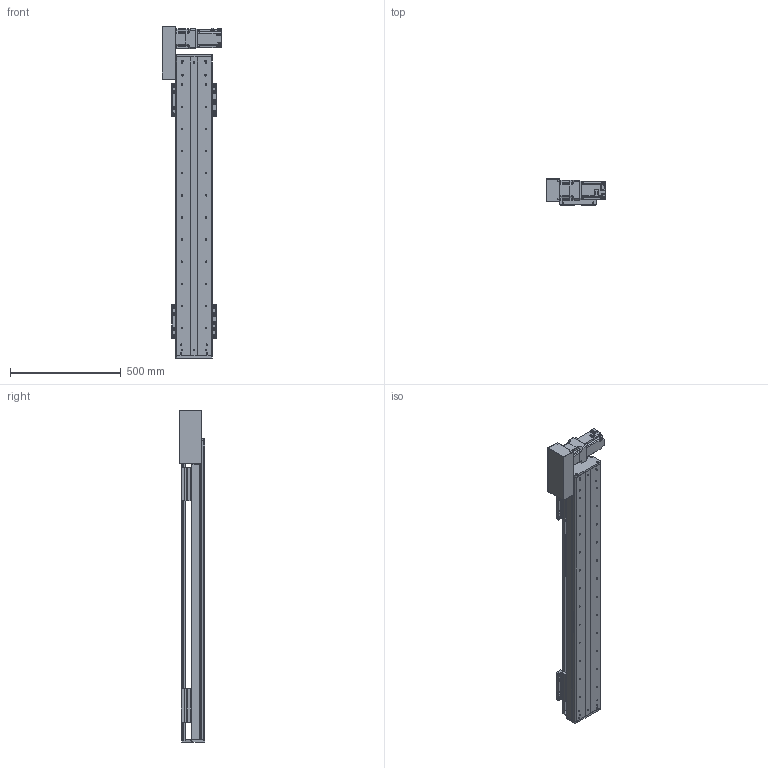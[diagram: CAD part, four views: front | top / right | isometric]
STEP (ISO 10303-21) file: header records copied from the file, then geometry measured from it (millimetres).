
FILE_DESCRIPTION(/* description */ (''),/* implementation_level */ '2;1');
FILE_NAME(/* name */ 'C:\Users\PC\Desktop\3D도면\STEP\DSB165-L7G-W1000-R.stp',/* time_stamp */ '2018-06-25T14:31:47+09:00',/* author */ ('PC'),/* organization */ (''),/* preprocessor_version */ 'ST-DEVELOPER v16.5',/* originating_system */ 'Autodesk Inventor 2017',/* authorisation */ '');
FILE_SCHEMA (('AUTOMOTIVE_DESIGN { 1 0 10303 214 3 1 1 }'));
Length unit declared in the file: millimetre
Products named in the file (12): DSB165-L; DSR165-BASE_S; hg-kr73_; ab0901-p0401300102; 11-DBS165 BELT COVER; DBS165-COVER; DBS165-COVER_1; DBS165-UP COVER; DBS165-TABLE(MSA20S); DSR126-SENSOR DOG; pm-y65_step; SENSOR BRACKET(EE-SX674A)
Assembly tree (16 placements, depth 2):
  DSB165-L
    DSR165-BASE_S
    hg-kr73_
    ab0901-p0401300102
    11-DBS165 BELT COVER
    DBS165-COVER
    DBS165-COVER_1
    DBS165-UP COVER
    DBS165-TABLE(MSA20S)  x2
    DSR126-SENSOR DOG
    pm-y65_step  x3
    SENSOR BRACKET(EE-SX674A)  x3
Bounding box: 270 x 115 x 1500 mm (x, y, z)
Volume: 8867023.8 mm3; surface area: 2054384.4 mm2
Topology: 17 solids, 22 shells, 1679 faces, 4505 edges, 2970 vertices
Faces by surface type: plane 926, cylinder 625, cone 116, sphere 8, torus 4
Full cylindrical faces by diameter (mm): 2.459 x20, 3.5 x6, 4.134 x42, 4.5 x18, 5 x27, 5.5 x36, 5.9 x4, 6 x8, 6.6 x14, 6.647 x44, 6.8 x1, 7 x4, 7.6 x4, 8 x1, 8.4 x1, 8.5 x24, 8.7 x1, 9.5 x32, 11 x6, 14 x16, 19 x1, 22 x1, 24 x1, 25 x1, 28 x1, 67 x1, 70 x2, 80 x1
Entity records: 35709 total; most frequent: DIRECTION 6316, CARTESIAN_POINT 6115, ORIENTED_EDGE 5558, EDGE_CURVE 2784, AXIS2_PLACEMENT_3D 2328, VERTEX_POINT 1989, EDGE_LOOP 1755, LINE 1660
